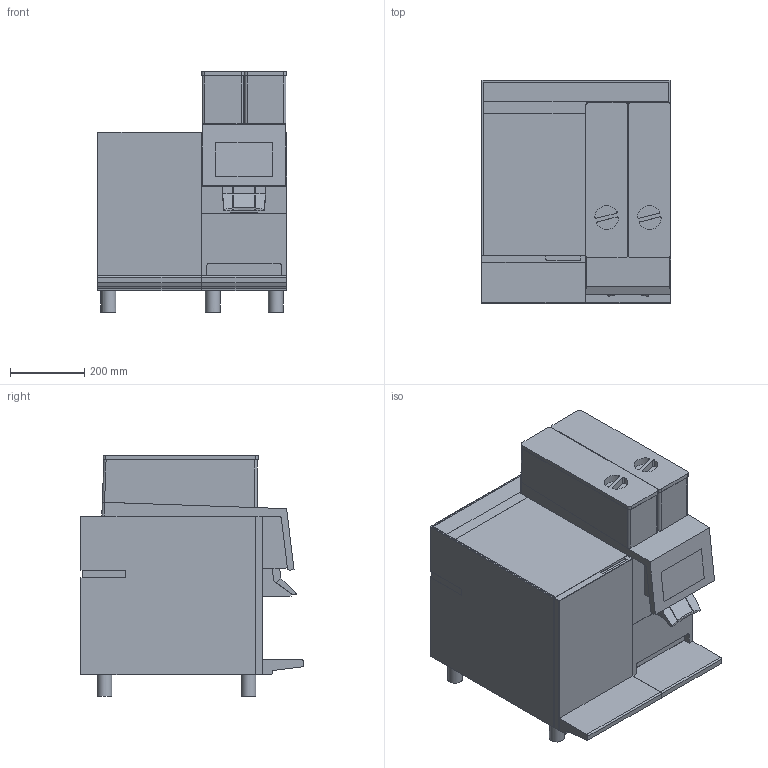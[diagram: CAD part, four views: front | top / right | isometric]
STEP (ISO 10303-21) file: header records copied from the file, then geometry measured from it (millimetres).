
FILE_DESCRIPTION(/* description */ ('Unknown'),/* implementation_level */ '2;1');
FILE_NAME(/* name */ 'HM_BW4c-CTM-RL',/* time_stamp */ '2026-08-14T14:26:55+02:00',/* author */ ('Unknown'),/* organization */ ('Unknown'),/* preprocessor_version */ 'ST-DEVELOPER v20',/* originating_system */ 'Solid Edge',/* authorisation */ 'Unknown');
FILE_SCHEMA (('AUTOMOTIVE_DESIGN {1 0 10303 214 3 1 1}'));
Length unit declared in the file: millimetre
Products named in the file (1): HM_BW4c-CTM-RL
Bounding box: 509.3 x 599.39 x 645.98 mm (x, y, z)
Volume: 125046512.9 mm3; surface area: 2027291.8 mm2
Topology: 1 solids, 1 shells, 284 faces, 780 edges, 501 vertices
Faces by surface type: plane 207, cylinder 73, sphere 4
Full cylindrical faces by diameter (mm): 40 x6
Entity records: 10893 total; most frequent: CARTESIAN_POINT 1550, ORIENTED_EDGE 1534, DIRECTION 1498, EDGE_CURVE 767, LINE 606, VECTOR 606, VERTEX_POINT 498, AXIS2_PLACEMENT_3D 446
